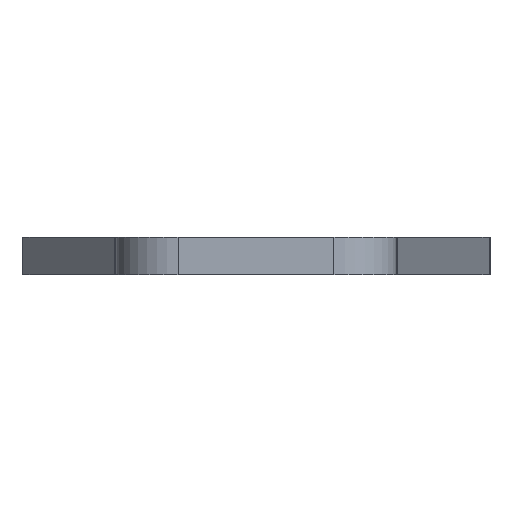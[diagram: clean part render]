
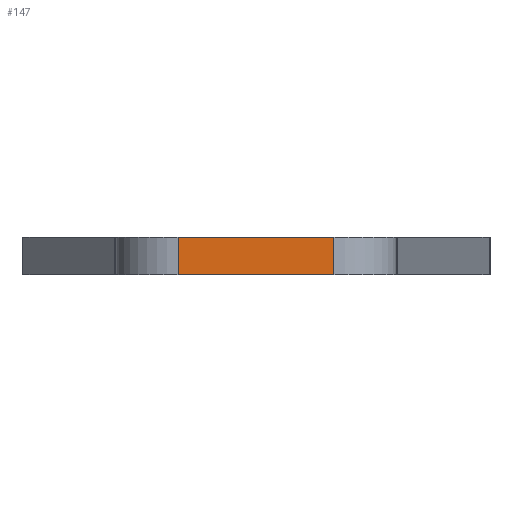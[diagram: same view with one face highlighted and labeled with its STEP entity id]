
A CAD part, front view. The second image highlights one B-rep face of the part: STEP entity #147.
In plain terms, the highlighted planar face has unit normal (0, -1, 0).
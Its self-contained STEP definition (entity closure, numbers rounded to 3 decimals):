
#139 = EDGE_CURVE ( 'NONE', #976, #203, #344, .T. ) ;
#141 = ORIENTED_EDGE ( 'NONE', *, *, #984, .T. ) ;
#142 = EDGE_LOOP ( 'NONE', ( #149, #173, #141, #153 ) ) ;
#147 = ADVANCED_FACE ( 'NONE', ( #272 ), #377, .F. ) ;
#149 = ORIENTED_EDGE ( 'NONE', *, *, #947, .F. ) ;
#153 = ORIENTED_EDGE ( 'NONE', *, *, #139, .T. ) ;
#173 = ORIENTED_EDGE ( 'NONE', *, *, #175, .T. ) ;
#175 = EDGE_CURVE ( 'NONE', #920, #957, #321, .T. ) ;
#203 = VERTEX_POINT ( 'NONE', #355 ) ;
#269 = DIRECTION ( 'NONE',  ( 0., 0., 1. ) ) ;
#270 = VECTOR ( 'NONE', #269, 1000. ) ;
#271 = AXIS2_PLACEMENT_3D ( 'NONE', #317, #316, #315 ) ;
#272 = FACE_OUTER_BOUND ( 'NONE', #142, .T. ) ;
#315 = DIRECTION ( 'NONE',  ( 0., 0., 1. ) ) ;
#316 = DIRECTION ( 'NONE',  ( 0., 1., 0. ) ) ;
#317 = CARTESIAN_POINT ( 'NONE',  ( -22.5, 0., 6. ) ) ;
#321 = LINE ( 'NONE', #384, #352 ) ;
#343 = CARTESIAN_POINT ( 'NONE',  ( 12.5, 0., 6. ) ) ;
#344 = LINE ( 'NONE', #343, #270 ) ;
#351 = DIRECTION ( 'NONE',  ( 0., 0., -1. ) ) ;
#352 = VECTOR ( 'NONE', #351, 1000. ) ;
#355 = CARTESIAN_POINT ( 'NONE',  ( 12.5, 0., 6. ) ) ;
#377 = PLANE ( 'NONE',  #271 ) ;
#384 = CARTESIAN_POINT ( 'NONE',  ( -12.5, 0., 6. ) ) ;
#405 = DIRECTION ( 'NONE',  ( 1., 0., 0. ) ) ;
#406 = VECTOR ( 'NONE', #405, 1000. ) ;
#419 = LINE ( 'NONE', #459, #406 ) ;
#459 = CARTESIAN_POINT ( 'NONE',  ( -22.5, 0., 0. ) ) ;
#471 = CARTESIAN_POINT ( 'NONE',  ( 12.5, 0., 0. ) ) ;
#516 = DIRECTION ( 'NONE',  ( 1., 0., 0. ) ) ;
#517 = VECTOR ( 'NONE', #516, 1000. ) ;
#518 = CARTESIAN_POINT ( 'NONE',  ( -22.5, 0., 6. ) ) ;
#525 = CARTESIAN_POINT ( 'NONE',  ( -12.5, 0., 0. ) ) ;
#567 = LINE ( 'NONE', #518, #517 ) ;
#603 = CARTESIAN_POINT ( 'NONE',  ( -12.5, 0., 6. ) ) ;
#920 = VERTEX_POINT ( 'NONE', #603 ) ;
#947 = EDGE_CURVE ( 'NONE', #920, #203, #567, .T. ) ;
#957 = VERTEX_POINT ( 'NONE', #525 ) ;
#976 = VERTEX_POINT ( 'NONE', #471 ) ;
#984 = EDGE_CURVE ( 'NONE', #957, #976, #419, .T. ) ;
